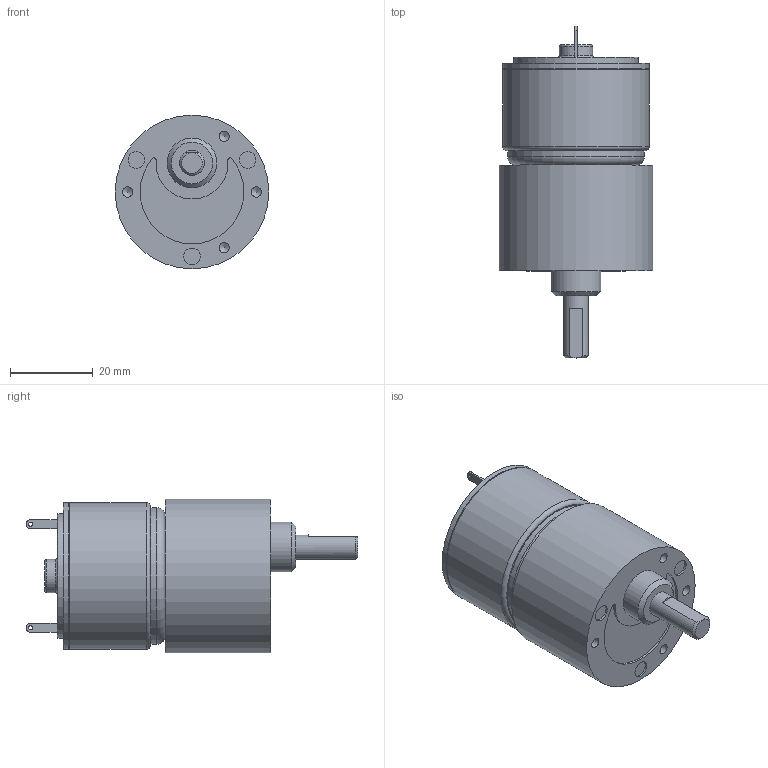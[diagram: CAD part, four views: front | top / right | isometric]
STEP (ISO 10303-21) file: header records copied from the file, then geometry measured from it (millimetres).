
FILE_DESCRIPTION((''),'2;1');
FILE_NAME('C:\Documents and Settings\SSEGAWA\デスクトップ\TP-3526G-KM-3.STP','2013-07-09T17:27:15',('SSEGAWA'),(''),'Autodesk Inventor 2010','Autodesk Inventor 2010','');
FILE_SCHEMA(('CONFIG_CONTROL_DESIGN'));
Length unit declared in the file: millimetre
Products named in the file (3): tp_3526g_km_3; km_3; tp_3526g
Assembly tree (2 placements, depth 2):
  tp_3526g_km_3
    km_3
    tp_3526g
Bounding box: 37 x 80 x 37 mm (x, y, z)
Volume: 53214.5 mm3; surface area: 10786.9 mm2
Topology: 2 solids, 2 shells, 77 faces, 158 edges, 103 vertices
Faces by surface type: plane 30, cylinder 23, bspline 17, torus 4, cone 3
Full cylindrical faces by diameter (mm): 2 x1, 2.4 x1, 4 x3, 5 x2, 6 x1, 8 x1, 10 x1, 12 x1, 30 x1, 33 x1, 35 x1, 35.4 x2, 37 x1
Entity records: 2095 total; most frequent: CARTESIAN_POINT 645, DIRECTION 303, ORIENTED_EDGE 204, EDGE_LOOP 139, AXIS2_PLACEMENT_3D 138, EDGE_CURVE 102, VERTEX_POINT 87, FACE_OUTER_BOUND 77
